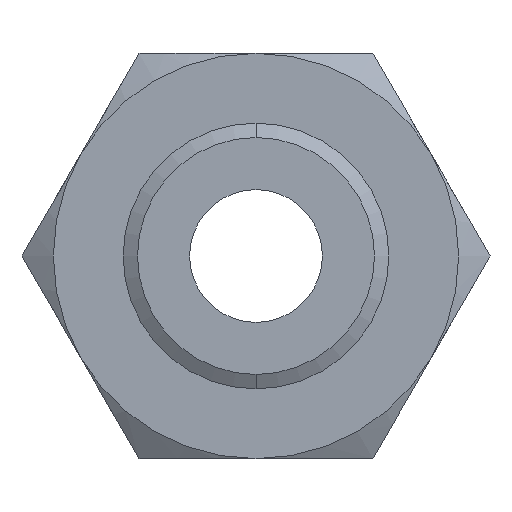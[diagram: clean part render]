
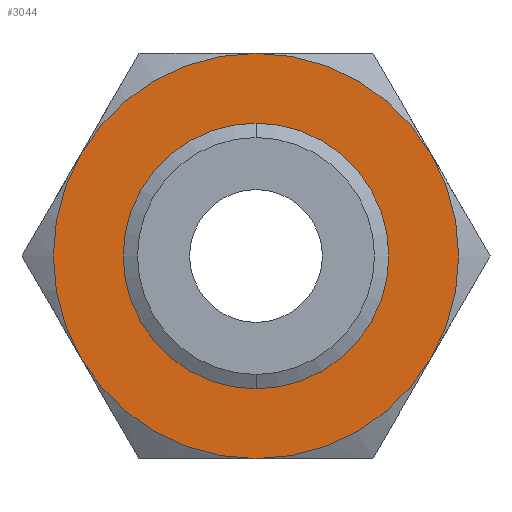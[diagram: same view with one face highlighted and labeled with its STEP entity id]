
A CAD part, front view. The second image highlights one B-rep face of the part: STEP entity #3044.
In plain terms, the highlighted planar face has unit normal (0, -1, 0).
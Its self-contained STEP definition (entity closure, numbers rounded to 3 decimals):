
#244 = VERTEX_POINT ( 'NONE', #926 ) ;
#245 = VERTEX_POINT ( 'NONE', #925 ) ;
#274 = EDGE_CURVE ( 'NONE', #244, #245, #996, .T. ) ;
#925 = CARTESIAN_POINT ( 'NONE',  ( 0., 0., 45.301 ) ) ;
#926 = CARTESIAN_POINT ( 'NONE',  ( 0., 0., -45.301 ) ) ;
#992 = DIRECTION ( 'NONE',  ( 0., 0., -1. ) ) ;
#993 = DIRECTION ( 'NONE',  ( 0., -1., 0. ) ) ;
#994 = CARTESIAN_POINT ( 'NONE',  ( 0., 0., 0. ) ) ;
#995 = AXIS2_PLACEMENT_3D ( 'NONE', #994, #993, #992 ) ;
#996 = CIRCLE ( 'NONE', #995, 45.301 ) ;
#1326 = DIRECTION ( 'NONE',  ( 0., 0., 1. ) ) ;
#1327 = DIRECTION ( 'NONE',  ( 0., 1., 0. ) ) ;
#1328 = CARTESIAN_POINT ( 'NONE',  ( 0., 0., 0. ) ) ;
#1329 = AXIS2_PLACEMENT_3D ( 'NONE', #1328, #1327, #1326 ) ;
#1330 = CIRCLE ( 'NONE', #1329, 77.5 ) ;
#1339 = DIRECTION ( 'NONE',  ( 0., 0., -1. ) ) ;
#1340 = DIRECTION ( 'NONE',  ( 0., -1., 0. ) ) ;
#1341 = CARTESIAN_POINT ( 'NONE',  ( 0., 0., 0. ) ) ;
#1342 = AXIS2_PLACEMENT_3D ( 'NONE', #1341, #1340, #1339 ) ;
#1343 = CIRCLE ( 'NONE', #1342, 45.301 ) ;
#1358 = DIRECTION ( 'NONE',  ( 0., 0., 1. ) ) ;
#1359 = DIRECTION ( 'NONE',  ( 0., 1., 0. ) ) ;
#1360 = CARTESIAN_POINT ( 'NONE',  ( 0., 0., 0. ) ) ;
#1361 = AXIS2_PLACEMENT_3D ( 'NONE', #1360, #1359, #1358 ) ;
#1362 = CIRCLE ( 'NONE', #1361, 77.5 ) ;
#1363 = CARTESIAN_POINT ( 'NONE',  ( 0., 0., -77.5 ) ) ;
#1364 = DIRECTION ( 'NONE',  ( 0., 0., 1. ) ) ;
#1365 = DIRECTION ( 'NONE',  ( 0., 1., 0. ) ) ;
#1366 = CARTESIAN_POINT ( 'NONE',  ( 0., 0., 0. ) ) ;
#1367 = AXIS2_PLACEMENT_3D ( 'NONE', #1366, #1365, #1364 ) ;
#1368 = CIRCLE ( 'NONE', #1367, 77.5 ) ;
#1375 = CARTESIAN_POINT ( 'NONE',  ( 67.117, 0., -38.75 ) ) ;
#2093 = CIRCLE ( 'NONE', #2098, 77.5 ) ;
#2094 = CARTESIAN_POINT ( 'NONE',  ( 0., 0., 77.5 ) ) ;
#2098 = AXIS2_PLACEMENT_3D ( 'NONE', #2156, #2155, #2154 ) ;
#2123 = CARTESIAN_POINT ( 'NONE',  ( 44.745, 0., -77.5 ) ) ;
#2124 = AXIS2_PLACEMENT_3D ( 'NONE', #2123, #2186, #2185 ) ;
#2125 = FACE_BOUND ( 'NONE', #2575, .T. ) ;
#2126 = FACE_OUTER_BOUND ( 'NONE', #2994, .T. ) ;
#2127 = CARTESIAN_POINT ( 'NONE',  ( -67.117, 0., -38.75 ) ) ;
#2132 = PLANE ( 'NONE',  #2124 ) ;
#2133 = DIRECTION ( 'NONE',  ( 0., 0., 1. ) ) ;
#2134 = DIRECTION ( 'NONE',  ( 0., 1., 0. ) ) ;
#2135 = CARTESIAN_POINT ( 'NONE',  ( 0., 0., 0. ) ) ;
#2136 = AXIS2_PLACEMENT_3D ( 'NONE', #2135, #2134, #2133 ) ;
#2137 = CIRCLE ( 'NONE', #2136, 77.5 ) ;
#2138 = DIRECTION ( 'NONE',  ( 0., 0., 1. ) ) ;
#2139 = DIRECTION ( 'NONE',  ( 0., 1., 0. ) ) ;
#2140 = CARTESIAN_POINT ( 'NONE',  ( 0., 0., 0. ) ) ;
#2141 = AXIS2_PLACEMENT_3D ( 'NONE', #2140, #2139, #2138 ) ;
#2142 = CIRCLE ( 'NONE', #2141, 77.5 ) ;
#2143 = CARTESIAN_POINT ( 'NONE',  ( -67.117, 0., 38.75 ) ) ;
#2153 = CARTESIAN_POINT ( 'NONE',  ( 67.117, 0., 38.75 ) ) ;
#2154 = DIRECTION ( 'NONE',  ( 0., 0., 1. ) ) ;
#2155 = DIRECTION ( 'NONE',  ( 0., 1., 0. ) ) ;
#2156 = CARTESIAN_POINT ( 'NONE',  ( 0., 0., 0. ) ) ;
#2185 = DIRECTION ( 'NONE',  ( 0., 0., 1. ) ) ;
#2186 = DIRECTION ( 'NONE',  ( 0., 1., 0. ) ) ;
#2569 = ORIENTED_EDGE ( 'NONE', *, *, #274, .F. ) ;
#2570 = ORIENTED_EDGE ( 'NONE', *, *, #2571, .F. ) ;
#2571 = EDGE_CURVE ( 'NONE', #245, #244, #1343, .T. ) ;
#2575 = EDGE_LOOP ( 'NONE', ( #2569, #2570 ) ) ;
#2578 = ORIENTED_EDGE ( 'NONE', *, *, #2579, .F. ) ;
#2579 = EDGE_CURVE ( 'NONE', #3035, #2591, #1330, .T. ) ;
#2591 = VERTEX_POINT ( 'NONE', #1375 ) ;
#2592 = ORIENTED_EDGE ( 'NONE', *, *, #2595, .F. ) ;
#2595 = EDGE_CURVE ( 'NONE', #2597, #3043, #1368, .T. ) ;
#2596 = EDGE_CURVE ( 'NONE', #2591, #2597, #1362, .T. ) ;
#2597 = VERTEX_POINT ( 'NONE', #1363 ) ;
#2598 = ORIENTED_EDGE ( 'NONE', *, *, #2596, .F. ) ;
#2994 = EDGE_LOOP ( 'NONE', ( #3031, #2999, #3040, #2592, #2598, #2578 ) ) ;
#2999 = ORIENTED_EDGE ( 'NONE', *, *, #3041, .F. ) ;
#3031 = ORIENTED_EDGE ( 'NONE', *, *, #3032, .F. ) ;
#3032 = EDGE_CURVE ( 'NONE', #3034, #3035, #2093, .T. ) ;
#3034 = VERTEX_POINT ( 'NONE', #2094 ) ;
#3035 = VERTEX_POINT ( 'NONE', #2153 ) ;
#3038 = VERTEX_POINT ( 'NONE', #2143 ) ;
#3039 = EDGE_CURVE ( 'NONE', #3043, #3038, #2142, .T. ) ;
#3040 = ORIENTED_EDGE ( 'NONE', *, *, #3039, .F. ) ;
#3041 = EDGE_CURVE ( 'NONE', #3038, #3034, #2137, .T. ) ;
#3043 = VERTEX_POINT ( 'NONE', #2127 ) ;
#3044 = ADVANCED_FACE ( 'NONE', ( #2126, #2125 ), #2132, .F. ) ;
